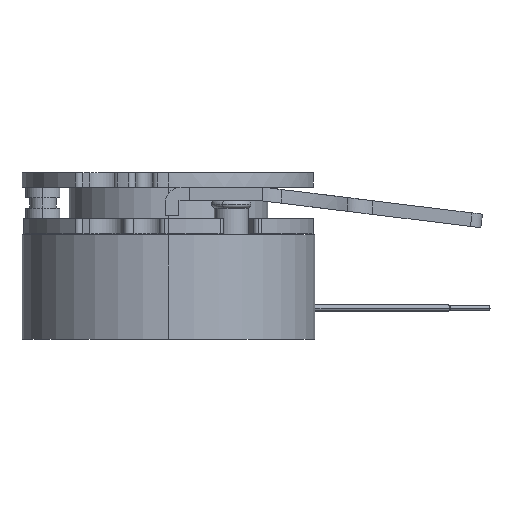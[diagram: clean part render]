
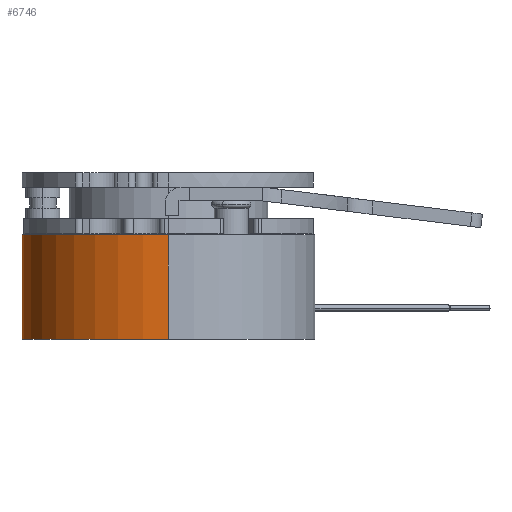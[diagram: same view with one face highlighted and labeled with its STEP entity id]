
A CAD part, left-side view. The second image highlights one B-rep face of the part: STEP entity #6746.
In plain terms, the highlighted cylindrical face has radius 28 mm (diameter 56 mm), a partial arc.
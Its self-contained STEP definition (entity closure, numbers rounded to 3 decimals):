
#1713 = CARTESIAN_POINT ( 'NONE',  ( 0., 0., 20. ) ) ;
#1714 = DIRECTION ( 'NONE',  ( 0., 0., -1. ) ) ;
#1722 = DIRECTION ( 'NONE',  ( -1., 0., 0. ) ) ;
#2922 = CARTESIAN_POINT ( 'NONE',  ( 28., 0., 0. ) ) ;
#2923 = CARTESIAN_POINT ( 'NONE',  ( -28., 0., 0. ) ) ;
#3330 = ORIENTED_EDGE ( 'NONE', *, *, #13524, .F. ) ;
#3332 = ORIENTED_EDGE ( 'NONE', *, *, #13569, .T. ) ;
#3334 = ORIENTED_EDGE ( 'NONE', *, *, #13341, .T. ) ;
#3337 = ORIENTED_EDGE ( 'NONE', *, *, #13461, .F. ) ;
#6746 = ADVANCED_FACE ( 'NONE', ( #10247 ), #10255, .T. ) ;
#7792 = VERTEX_POINT ( 'NONE', #2922 ) ;
#7793 = VERTEX_POINT ( 'NONE', #2923 ) ;
#8251 = AXIS2_PLACEMENT_3D ( 'NONE', #9638, #9639, #9640 ) ;
#8929 = CIRCLE ( 'NONE', #8251, 28. ) ;
#9112 = LINE ( 'NONE', #15280, #9115 ) ;
#9115 = VECTOR ( 'NONE', #15283, 1000. ) ;
#9210 = CIRCLE ( 'NONE', #14926, 28. ) ;
#9276 = LINE ( 'NONE', #15789, #9279 ) ;
#9279 = VECTOR ( 'NONE', #15792, 1000. ) ;
#9473 = CARTESIAN_POINT ( 'NONE',  ( 28., 0., 20. ) ) ;
#9475 = CARTESIAN_POINT ( 'NONE',  ( -28., 0., 20. ) ) ;
#9638 = CARTESIAN_POINT ( 'NONE',  ( 0., 0., 0. ) ) ;
#9639 = DIRECTION ( 'NONE',  ( 0., 0., 1. ) ) ;
#9640 = DIRECTION ( 'NONE',  ( 1., 0., 0. ) ) ;
#10247 = FACE_OUTER_BOUND ( 'NONE', #13792, .T. ) ;
#10255 = CYLINDRICAL_SURFACE ( 'NONE', #12002, 28. ) ;
#12002 = AXIS2_PLACEMENT_3D ( 'NONE', #1713, #1714, #1722 ) ;
#13277 = VERTEX_POINT ( 'NONE', #9473 ) ;
#13279 = VERTEX_POINT ( 'NONE', #9475 ) ;
#13341 = EDGE_CURVE ( 'NONE', #7792, #7793, #8929, .T. ) ;
#13461 = EDGE_CURVE ( 'NONE', #13279, #7793, #9112, .T. ) ;
#13524 = EDGE_CURVE ( 'NONE', #13277, #13279, #9210, .T. ) ;
#13569 = EDGE_CURVE ( 'NONE', #13277, #7792, #9276, .T. ) ;
#13792 = EDGE_LOOP ( 'NONE', ( #3330, #3332, #3334, #3337 ) ) ;
#14926 = AXIS2_PLACEMENT_3D ( 'NONE', #15553, #15554, #15555 ) ;
#15280 = CARTESIAN_POINT ( 'NONE',  ( -28., 0., 20. ) ) ;
#15283 = DIRECTION ( 'NONE',  ( 0., 0., -1. ) ) ;
#15553 = CARTESIAN_POINT ( 'NONE',  ( 0., 0., 20. ) ) ;
#15554 = DIRECTION ( 'NONE',  ( 0., 0., 1. ) ) ;
#15555 = DIRECTION ( 'NONE',  ( 1., 0., 0. ) ) ;
#15789 = CARTESIAN_POINT ( 'NONE',  ( 28., 0., 20. ) ) ;
#15792 = DIRECTION ( 'NONE',  ( 0., 0., -1. ) ) ;
